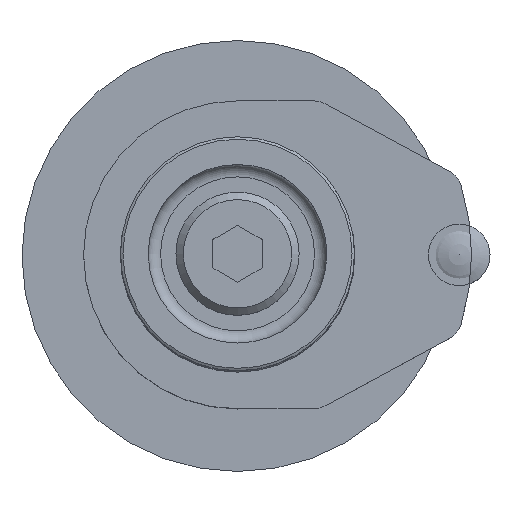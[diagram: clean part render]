
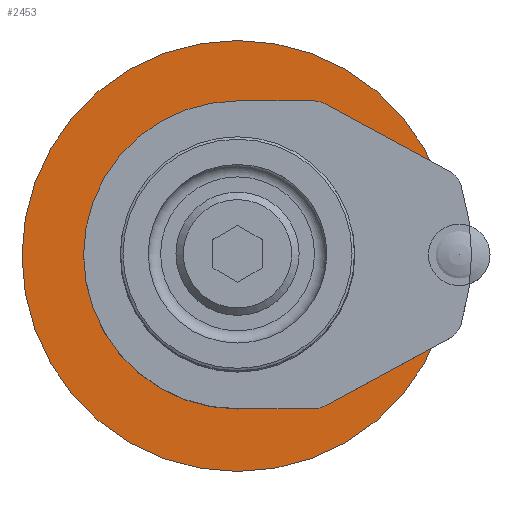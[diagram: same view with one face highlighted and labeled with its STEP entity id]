
A CAD part, top view. The second image highlights one B-rep face of the part: STEP entity #2453.
In plain terms, the highlighted planar face has unit normal (0, 0, 1).
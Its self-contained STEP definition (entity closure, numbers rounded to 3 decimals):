
#2205=PLANE('',#4646);
#2293=FACE_OUTER_BOUND('',#2992,.T.);
#2453=ADVANCED_FACE('',(#2293),#2205,.F.);
#2992=EDGE_LOOP('',(#3440));
#3440=ORIENTED_EDGE('',*,*,#4143,.F.);
#3877=VERTEX_POINT('',#6154);
#4143=EDGE_CURVE('',#3877,#3877,#4381,.T.);
#4381=CIRCLE('',#4644,17.5);
#4644=AXIS2_PLACEMENT_3D('',#6153,#5262,#5263);
#4646=AXIS2_PLACEMENT_3D('',#6156,#5266,#5267);
#5262=DIRECTION('',(0.,0.,-1.));
#5263=DIRECTION('',(0.,1.,0.));
#5266=DIRECTION('',(0.,0.,-1.));
#5267=DIRECTION('',(-1.,0.,0.));
#6153=CARTESIAN_POINT('',(0.,0.,70.));
#6154=CARTESIAN_POINT('',(0.,17.5,70.));
#6156=CARTESIAN_POINT('',(0.,0.,70.));
